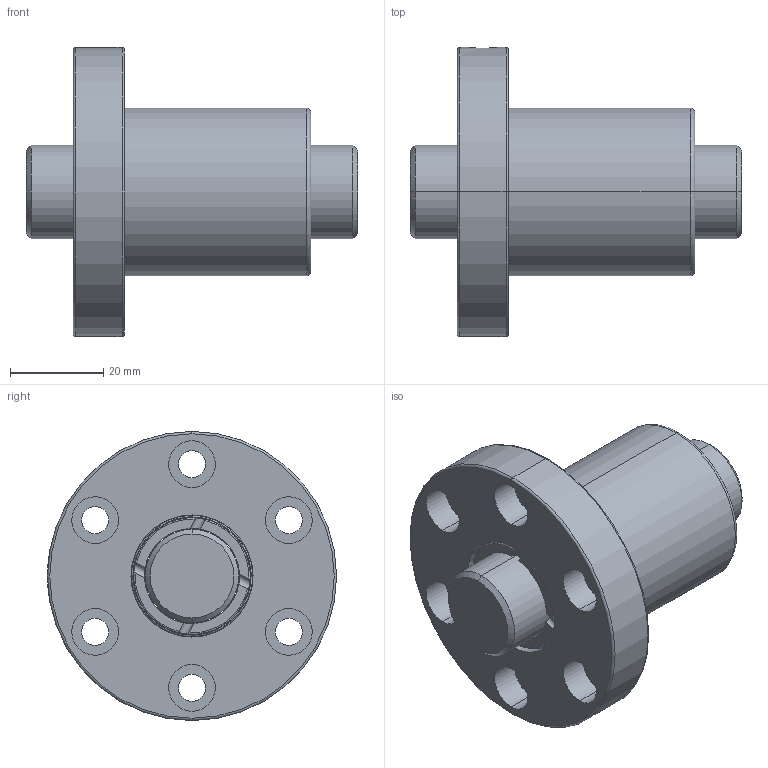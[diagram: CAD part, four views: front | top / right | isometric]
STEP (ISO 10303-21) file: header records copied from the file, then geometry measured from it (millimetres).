
FILE_DESCRIPTION (( 'STEP AP203' ), '1' );
FILE_NAME ('SFZR02005T4N-C.STEP', '2020-06-18T00:56:53', ( '' ), ( '' ), 'SwSTEP 2.0', 'SolidWorks 2013', '' );
FILE_SCHEMA (( 'CONFIG_CONTROL_DESIGN' ));
Length unit declared in the file: millimetre
Products named in the file (1): SFZR02005T4N-C
Bounding box: 71 x 62 x 62 mm (x, y, z)
Volume: 73309.6 mm3; surface area: 24151.3 mm2
Topology: 2 solids, 2 shells, 122 faces, 304 edges, 196 vertices
Faces by surface type: cylinder 66, torus 26, plane 26, cone 4
Entity records: 4517 total; most frequent: CARTESIAN_POINT 1439, DIRECTION 668, ORIENTED_EDGE 608, EDGE_CURVE 304, AXIS2_PLACEMENT_3D 297, VERTEX_POINT 196, CIRCLE 174, EDGE_LOOP 150
